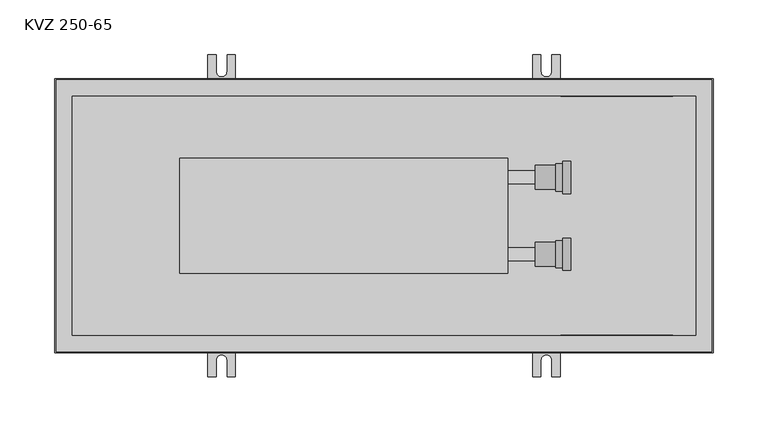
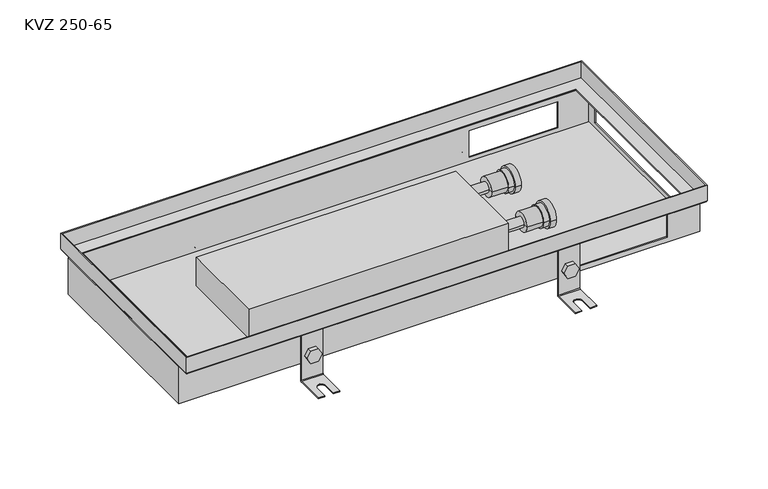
"""IFC4 building model written with IfcOpenShell, lengths in millimetres: proxy geometry, TECHNO_Конвектор встраиваемый_Usual_KVZ-250_65 : KVZ 250-65."""

import ifcopenshell
import ifcopenshell.guid

model = None  # the IFC model being written
_history = None  # IfcOwnerHistory: only IFC2X3 demands one
_inside = {}  # id of a spatial element -> (the spatial element, [elements in it])
_under = {}  # id of a project, library or spatial element -> (it, [spatial elements below it])
_declared = {}  # id of a project -> (the project, [libraries it declares])
_typed = {}  # id of a type object -> (the type object, [elements of that type])
_made_of = {}  # id of a material, layer set ... -> (it, [elements and type objects made of it])


def new_model(schema):
    """Start an empty IFC model of exactly this schema.

    Asked for "IFC4X3", IfcOpenShell would pick the latest addendum, in which some entities
    have other attributes; the version numbers below select the first issue.
    IFC2X3 requires an IfcOwnerHistory on every rooted entity: one is made here for all.
    """
    global model, _history
    if schema == "IFC4X3":
        model = ifcopenshell.file(schema_version=(4, 3, 0, 0))
    else:
        model = ifcopenshell.file(schema=schema)
    _inside.clear()
    _under.clear()
    _declared.clear()
    _typed.clear()
    _made_of.clear()
    _history = None
    if model.schema == "IFC2X3":
        org = make("IfcOrganization", Name="unknown")
        user = make(
            "IfcPersonAndOrganization",
            ThePerson=make("IfcPerson", FamilyName="unknown"),
            TheOrganization=org,
        )
        app = make(
            "IfcApplication",
            ApplicationDeveloper=org,
            Version="unknown",
            ApplicationFullName="unknown",
            ApplicationIdentifier="unknown",
        )
        _history = make(
            "IfcOwnerHistory",
            OwningUser=user,
            OwningApplication=app,
            ChangeAction="ADDED",
            CreationDate=0,
        )
    return model


def make(cls, **values):
    """One entity of the class cls with the attributes given. An attribute that is None is left unset."""
    return model.create_entity(
        cls, **{name: value for name, value in values.items() if value is not None}
    )


def rooted(cls, **values):
    """An entity with a GlobalId (a new one), such as an element, a storey or a relation."""
    return make(cls, GlobalId=ifcopenshell.guid.new(), OwnerHistory=_history, **values)


def si_unit(unit_type, name, prefix=None):
    """IfcSIUnit, for example si_unit("LENGTHUNIT", "METRE", prefix="MILLI")."""
    return make("IfcSIUnit", UnitType=unit_type, Prefix=prefix, Name=name)


def assignment(units):
    """IfcUnitAssignment: the units of a project."""
    return None if units is None else make("IfcUnitAssignment", Units=units)


def point(xyz):
    """IfcCartesianPoint."""
    return None if xyz is None else make("IfcCartesianPoint", Coordinates=xyz)


def direction(xyz):
    """IfcDirection."""
    return None if xyz is None else make("IfcDirection", DirectionRatios=xyz)


def frame(location, z_axis=None, x_axis=None):
    """IfcAxis2Placement3D, a coordinate frame: its origin and axes. An axis left out is left unset."""
    return make(
        "IfcAxis2Placement3D",
        Location=point(location),
        Axis=direction(z_axis),
        RefDirection=direction(x_axis),
    )


def frame_2d(location, x_axis=None):
    """IfcAxis2Placement2D, a coordinate frame in the plane: its origin and x axis."""
    return make(
        "IfcAxis2Placement2D", Location=point(location), RefDirection=direction(x_axis)
    )


def origin():
    """The frame at (0, 0, 0) with its axes left unset."""
    return frame((0.0, 0.0, 0.0))


def place(relative_to, where):
    """IfcLocalPlacement: puts the frame where relative to a parent placement (None: the world)."""
    return make(
        "IfcLocalPlacement", PlacementRelTo=relative_to, RelativePlacement=where
    )


def context(
    kind, dimensions, precision=None, world=None, true_north=None, identifier=None
):
    """IfcGeometricRepresentationContext, for example the 3D "Model" context."""
    return make(
        "IfcGeometricRepresentationContext",
        ContextIdentifier=identifier,
        ContextType=kind,
        CoordinateSpaceDimension=dimensions,
        Precision=precision,
        WorldCoordinateSystem=world,
        TrueNorth=true_north,
    )


def project(units=None, contexts=None):
    """IfcProject with its units and contexts."""
    return rooted(
        "IfcProject",
        Name="project",
        RepresentationContexts=contexts,
        UnitsInContext=assignment(units),
    )


def spatial(cls, under=None, at=None, **own):
    """A site, building, storey or space (cls), placed at a placement, below another one or the project."""
    s = rooted(cls, ObjectPlacement=at, **own)
    if under is not None:
        _under.setdefault(under.id(), (under, []))[1].append(s)
    return s


def polyline(points):
    """IfcPolyline through the points."""
    return make("IfcPolyline", Points=[point(p) for p in points])


def circle_curve(where, radius):
    """IfcCircle in the frame where."""
    return make("IfcCircle", Position=where, Radius=radius)


def ellipse_curve(where, semi_axis1, semi_axis2):
    """IfcEllipse in the frame where."""
    return make(
        "IfcEllipse", Position=where, SemiAxis1=semi_axis1, SemiAxis2=semi_axis2
    )


def trimmed(basis, trim1, trim2, sense, master):
    """IfcTrimmedCurve: the piece of a basis curve between two trims."""
    return make(
        "IfcTrimmedCurve",
        BasisCurve=basis,
        Trim1=trim1,
        Trim2=trim2,
        SenseAgreement=sense,
        MasterRepresentation=master,
    )


def segment(curve, same_sense, transition):
    """IfcCompositeCurveSegment."""
    return make(
        "IfcCompositeCurveSegment",
        Transition=transition,
        SameSense=same_sense,
        ParentCurve=curve,
    )


def composite_curve(segments, self_intersect=None):
    """IfcCompositeCurve: segments joined end to end."""
    return make("IfcCompositeCurve", Segments=segments, SelfIntersect=self_intersect)


def outline(outer, holes=None, kind="AREA"):
    """IfcArbitraryClosedProfileDef: a profile drawn as a closed curve; with holes, ...WithVoids."""
    if holes is None:
        return make("IfcArbitraryClosedProfileDef", ProfileType=kind, OuterCurve=outer)
    return make(
        "IfcArbitraryProfileDefWithVoids",
        ProfileType=kind,
        OuterCurve=outer,
        InnerCurves=holes,
    )


def extrude(swept, where, along, depth):
    """IfcExtrudedAreaSolid: the profile swept, set in the frame where, extruded along a direction by depth."""
    return make(
        "IfcExtrudedAreaSolid",
        SweptArea=swept,
        Position=where,
        ExtrudedDirection=direction(along),
        Depth=depth,
    )


def faces_of(points, faces, orient=None, outer=None):
    """IfcFace entities. A face is a list of loops; a loop is a list of indices into points, from 0.

    orient and outer hold one flag for each loop. By default every Orientation is true, the
    first loop of a face is its IfcFaceOuterBound and the others are IfcFaceBound.
    """
    made = []
    for i, loops in enumerate(faces):
        bounds = []
        for j, loop in enumerate(loops):
            is_outer = j == 0 if outer is None else outer[i][j]
            bounds.append(
                make(
                    "IfcFaceOuterBound" if is_outer else "IfcFaceBound",
                    Bound=make("IfcPolyLoop", Polygon=[points[k] for k in loop]),
                    Orientation=True if orient is None else orient[i][j],
                )
            )
        made.append(make("IfcFace", Bounds=bounds))
    return made


def faceted_brep(points, faces, orient=None, outer=None, voids=None):
    """IfcFacetedBrep: a solid bounded by flat faces; with voids (closed shells), ...WithVoids."""
    shared = [point(p) for p in points]
    hull = make("IfcClosedShell", CfsFaces=faces_of(shared, faces, orient, outer))
    if voids is None:
        return make("IfcFacetedBrep", Outer=hull)
    return make(
        "IfcFacetedBrepWithVoids",
        Outer=hull,
        Voids=[
            make(cls, CfsFaces=faces_of(shared, fs, o, b)) for cls, fs, o, b in voids
        ],
    )


def shape(context_of_items, identifier, shape_type, items):
    """IfcShapeRepresentation: the items that make up one representation, for example the "Body"."""
    return make(
        "IfcShapeRepresentation",
        ContextOfItems=context_of_items,
        RepresentationIdentifier=identifier,
        RepresentationType=shape_type,
        Items=items,
    )


def source(mapping_origin, context_of_items, identifier, shape_type, items):
    """IfcRepresentationMap: a shape defined once, which mapped items show again and again."""
    return make(
        "IfcRepresentationMap",
        MappingOrigin=mapping_origin,
        MappedRepresentation=shape(context_of_items, identifier, shape_type, items),
    )


def transform(
    local_origin,
    x_axis=None,
    y_axis=None,
    z_axis=None,
    scale=None,
    scale2=None,
    scale3=None,
    uniform=True,
):
    """IfcCartesianTransformationOperator3D, or its non-uniform kind. x_axis, y_axis, z_axis: its Axis1, 2, 3."""
    if uniform:
        return make(
            "IfcCartesianTransformationOperator3D",
            Axis1=direction(x_axis),
            Axis2=direction(y_axis),
            LocalOrigin=point(local_origin),
            Scale=scale,
            Axis3=direction(z_axis),
        )
    return make(
        "IfcCartesianTransformationOperator3DnonUniform",
        Axis1=direction(x_axis),
        Axis2=direction(y_axis),
        LocalOrigin=point(local_origin),
        Scale=scale,
        Axis3=direction(z_axis),
        Scale2=scale2,
        Scale3=scale3,
    )


def mapped(mapping_source, mapping_target):
    """IfcMappedItem: shows the shape of a source again, moved by a transform."""
    return make(
        "IfcMappedItem", MappingSource=mapping_source, MappingTarget=mapping_target
    )


def made_of(thing, what):
    """Note that an element or type object is made of a material, layer set ...; save() writes the relation."""
    if what is not None:
        _made_of.setdefault(what.id(), (what, []))[1].append(thing)
    return thing


def element(
    cls,
    number,
    at=None,
    inside=None,
    cuts=None,
    type_object=None,
    material=None,
    context=None,
    identifier="Body",
    shape_type=None,
    held_by="IfcProductDefinitionShape",
    body=None,
    shapes=None,
    **own,
):
    """One element of the class cls, such as IfcWall. Its Tag is "e" and its number.

    at: its placement. inside: the storey or other place that contains it. cuts: it is an
    opening in that element (IfcRelVoidsElement). A single representation is given by context,
    identifier, shape_type and body (its items); several are given by shapes. held_by: the class
    of the entity that holds the representations. save() writes the other relations.
    """
    e = rooted(cls, Tag="e%d" % number, ObjectPlacement=at, **own)
    if body is not None:
        shapes = [shape(context, identifier, shape_type, body)]
    if shapes is not None:
        e.Representation = make(held_by, Representations=shapes)
    if inside is not None:
        _inside.setdefault(inside.id(), (inside, []))[1].append(e)
    if cuts is not None:
        rooted(
            "IfcRelVoidsElement", RelatingBuildingElement=cuts, RelatedOpeningElement=e
        )
    if type_object is not None:
        _typed.setdefault(type_object.id(), (type_object, []))[1].append(e)
    return made_of(e, material)


def aggregate(whole, parts):
    """IfcRelAggregates: a whole, such as a stair, and the parts it consists of."""
    return rooted("IfcRelAggregates", RelatingObject=whole, RelatedObjects=parts)


def save(model, path):
    """Write the relations noted so far, then the file.

    IfcRelAggregates (storeys below a building ...), IfcRelContainedInSpatialStructure (elements
    in a storey), IfcRelDefinesByType, IfcRelAssociatesMaterial and IfcRelDeclares: one each for
    every whole, place, type object, material and project.
    """
    for whole, parts in _under.values():
        aggregate(whole, parts)
    for where, things in _inside.values():
        rooted(
            "IfcRelContainedInSpatialStructure",
            RelatedElements=things,
            RelatingStructure=where,
        )
    for kind, things in _typed.values():
        rooted("IfcRelDefinesByType", RelatedObjects=things, RelatingType=kind)
    for what, things in _made_of.values():
        rooted("IfcRelAssociatesMaterial", RelatedObjects=things, RelatingMaterial=what)
    for by, libraries in _declared.values():
        rooted("IfcRelDeclares", RelatingContext=by, RelatedDefinitions=libraries)
    model.write(path)


def plane_surface(at):
    """IfcPlane: the flat surface through the origin of the frame at, square to its z axis."""
    return make("IfcPlane", Position=at)


def cylinder_surface(at, radius):
    """IfcCylindricalSurface: all points at the distance radius from the z axis of the frame at."""
    return make("IfcCylindricalSurface", Position=at, Radius=radius)


def revolved_surface(curve, axis_point, axis_direction):
    """IfcSurfaceOfRevolution: the curve turned about the line through axis_point along axis_direction."""
    return make(
        "IfcSurfaceOfRevolution",
        SweptCurve=make("IfcArbitraryOpenProfileDef", ProfileType="CURVE", Curve=curve),
        AxisPosition=make("IfcAxis1Placement", Location=point(axis_point), Axis=direction(axis_direction)),
    )


def advanced_brep(points, edges, surfaces, faces):
    """IfcAdvancedBrep: a solid bounded by faces that lie on surfaces and meet in shared edges.

    An edge is (start, end): straight between two places in points (the first is 0);
    or (start, end, curve); or (start, end, curve, False) where it runs against its curve.
    A face is (place in surfaces, loops), or (place, loops, False) where it looks against
    its surface's normal. A loop lists edges by number (the first is 1), with a minus sign
    where the edge is run from its end to its start. The first loop is the outer one.
    """
    corners = [point(p) for p in points]
    vertices = [make("IfcVertexPoint", VertexGeometry=c) for c in corners]
    made = []
    for start, end, *more in edges:
        made.append(
            make(
                "IfcEdgeCurve",
                EdgeStart=vertices[start],
                EdgeEnd=vertices[end],
                EdgeGeometry=more[0] if more else make("IfcPolyline", Points=[corners[start], corners[end]]),
                SameSense=more[1] if len(more) > 1 else True,
            )
        )
    hull = []
    for where, loops, *sense in faces:
        bounds = []
        for j, loop in enumerate(loops):
            ring = [make("IfcOrientedEdge", EdgeElement=made[abs(k) - 1], Orientation=k > 0) for k in loop]
            bounds.append(
                make(
                    "IfcFaceOuterBound" if j == 0 else "IfcFaceBound",
                    Bound=make("IfcEdgeLoop", EdgeList=ring),
                    Orientation=True,
                )
            )
        hull.append(make("IfcAdvancedFace", Bounds=bounds, FaceSurface=surfaces[where], SameSense=sense[0] if sense else True))
    return make("IfcAdvancedBrep", Outer=make("IfcClosedShell", CfsFaces=hull))


def kvz_250_65_78995d62(model_context):
    return source(origin(), model_context, "Body", "SolidModel", [
        extrude(outline(composite_curve([segment(trimmed(circle_curve(frame_2d((-55.5, 448.0)), 7.5), [point((-55.5, 440.5))], [point((-55.5, 455.5))], False, "CARTESIAN"), True, "CONTINUOUS"), segment(trimmed(circle_curve(frame_2d((-55.5, 448.0)), 7.5), [point((-55.5, 455.5))], [point((-55.5, 440.5))], False, "CARTESIAN"), True, "CONTINUOUS")], self_intersect=False)), frame((0.0, 110.2, 0.0), z_axis=(0.0, 1.0, 0.0), x_axis=(0.0, 0.0, 1.0)), (0.0, 0.0, 1.0), 1.5),
        extrude(outline(polyline([(-55.5, 439.339746), (-63.0, 443.669873), (-63.0, 452.330127), (-55.5, 456.660254), (-48.0, 452.330127), (-48.0, 443.669873), (-55.5, 439.339746)])), frame((0.0, 112.9, 0.0), z_axis=(0.0, 1.0, 0.0), x_axis=(0.0, 0.0, 1.0)), (0.0, 0.0, 1.0), 5.1),
        advanced_brep(
        [(460.5, 112.9, -20.5), (460.5, 111.7, -20.5), (460.5, 111.7, -83.5), (460.5, 113.7, -85.5), (460.5, 146.7, -85.5), (460.5, 146.7, -84.3), (460.5, 113.7, -84.3), (460.5, 112.9, -83.5), (435.5, 112.9, -20.5), (435.5, 112.9, -83.5), (435.5, 113.7, -84.3), (435.5, 146.7, -84.3), (435.5, 146.7, -85.5), (435.5, 113.7, -85.5), (435.5, 111.7, -83.5), (435.5, 111.7, -20.5), (453.0, 146.7, -84.3), (453.0, 131.7, -84.3), (443.0, 131.7, -84.3), (443.0, 146.7, -84.3), (443.0, 146.7, -85.5), (453.0, 146.7, -85.5), (443.0, 131.7, -85.5), (453.0, 131.7, -85.5)],
        [
            (0, 1),
            (1, 2),
            (2, 3, circle_curve(frame((460.5, 113.7, -83.5), z_axis=(1.0, 0.0, 0.0), x_axis=(0.0, 1.0, 0.0)), 2.0)),
            (3, 4),
            (4, 5),
            (5, 6),
            (6, 7, circle_curve(frame((460.5, 113.7, -83.5), z_axis=(-1.0, 0.0, 0.0), x_axis=(0.0, 1.0, 0.0)), 0.8)),
            (7, 0),
            (8, 9),
            (9, 10, circle_curve(frame((435.5, 113.7, -83.5), z_axis=(1.0, 0.0, 0.0), x_axis=(0.0, 1.0, 0.0)), 0.8)),
            (10, 11),
            (11, 12),
            (12, 13),
            (13, 14, circle_curve(frame((435.5, 113.7, -83.5), z_axis=(-1.0, 0.0, 0.0), x_axis=(0.0, 1.0, 0.0)), 2.0)),
            (14, 15),
            (15, 8),
            (7, 9),
            (8, 0),
            (6, 10),
            (5, 16),
            (16, 17),
            (17, 18, circle_curve(frame((448.0, 131.7, -84.3), z_axis=(0.0, 0.0, -1.0), x_axis=(1.0, 0.0, 0.0)), 5.0)),
            (18, 19),
            (19, 11),
            (19, 20),
            (20, 12),
            (4, 21),
            (21, 16),
            (3, 13),
            (20, 22),
            (22, 23, circle_curve(frame((448.0, 131.7, -85.5), z_axis=(0.0, 0.0, 1.0), x_axis=(1.0, 0.0, 0.0)), 5.0)),
            (23, 21),
            (2, 14),
            (1, 15),
            (18, 22),
            (23, 17),
        ],
        [
            plane_surface(frame((460.5, 112.9, -20.5), z_axis=(1.0, 0.0, 0.0), x_axis=(0.0, 0.0, -1.0))),
            plane_surface(frame((435.5, 112.9, -20.5), z_axis=(-1.0, 0.0, 0.0), x_axis=(0.0, 0.0, 1.0))),
            plane_surface(frame((460.5, 112.9, -20.5), z_axis=(0.0, 1.0, 0.0), x_axis=(-1.0, 0.0, 0.0))),
            revolved_surface(polyline([(435.5, 114.5, -83.5), (460.5, 114.5, -83.5)]), (435.5, 113.7, -83.5), (-1.0, 0.0, 0.0)),
            plane_surface(frame((460.5, 113.7, -84.3), z_axis=(0.0, 0.0, 1.0), x_axis=(-1.0, 0.0, 0.0))),
            plane_surface(frame((460.5, 146.7, -84.3), z_axis=(0.0, 1.0, 0.0), x_axis=(-1.0, 0.0, 0.0))),
            plane_surface(frame((460.5, 146.7, -85.5), z_axis=(0.0, 0.0, -1.0), x_axis=(-1.0, 0.0, 0.0))),
            cylinder_surface(frame((435.5, 113.7, -83.5), z_axis=(1.0, 0.0, 0.0), x_axis=(0.0, 1.0, 0.0)), 2.0),
            plane_surface(frame((460.5, 111.7, -83.5), z_axis=(0.0, -1.0, 0.0), x_axis=(-1.0, 0.0, 0.0))),
            plane_surface(frame((460.5, 111.7, -20.5), z_axis=(0.0, 0.0, 1.0), x_axis=(-1.0, 0.0, 0.0))),
            plane_surface(frame((443.0, 131.7, -84.3), z_axis=(1.0, 0.0, 0.0), x_axis=(0.0, 0.0, -1.0))),
            plane_surface(frame((453.0, 146.7, -84.3), z_axis=(-1.0, 0.0, 0.0), x_axis=(0.0, 0.0, -1.0))),
            revolved_surface(polyline([(453.0, 131.7, -84.3), (453.0, 131.7, -85.5)]), (448.0, 131.7, -85.5), (0.0, 0.0, 1.0)),
        ],
        [
            (0, [[1, 2, 3, 4, 5, 6, 7, 8]]),
            (1, [[9, 10, 11, 12, 13, 14, 15, 16]]),
            (2, [[17, -9, 18, -8]]),
            (3, [[19, -10, -17, -7]]),
            (4, [[20, 21, 22, 23, 24, -11, -19, -6]]),
            (5, [[-24, 25, 26, -12]]),
            (5, [[27, 28, -20, -5]]),
            (6, [[29, -13, -26, 30, 31, 32, -27, -4]]),
            (7, [[33, -14, -29, -3]]),
            (8, [[34, -15, -33, -2]]),
            (9, [[-18, -16, -34, -1]]),
            (10, [[-30, -25, -23, 35]]),
            (11, [[-21, -28, -32, 36]]),
            (12, [[-22, -36, -31, -35]]),
        ],
    ),
        extrude(outline(composite_curve([segment(trimmed(circle_curve(frame_2d((-55.5, 448.0)), 7.5), [point((-55.5, 440.5))], [point((-55.5, 455.5))], False, "CARTESIAN"), True, "CONTINUOUS"), segment(trimmed(circle_curve(frame_2d((-55.5, 448.0)), 7.5), [point((-55.5, 455.5))], [point((-55.5, 440.5))], False, "CARTESIAN"), True, "CONTINUOUS")], self_intersect=False)), frame((0.0, -111.7, 0.0), z_axis=(0.0, 1.0, 0.0), x_axis=(0.0, 0.0, 1.0)), (0.0, 0.0, 1.0), 1.5),
        extrude(outline(polyline([(-55.5, 439.339746), (-63.0, 443.669873), (-63.0, 452.330127), (-55.5, 456.660254), (-48.0, 452.330127), (-48.0, 443.669873), (-55.5, 439.339746)])), frame((0.0, -118.0, 0.0), z_axis=(0.0, 1.0, 0.0), x_axis=(0.0, 0.0, 1.0)), (0.0, 0.0, 1.0), 5.1),
        advanced_brep(
        [(460.5, -112.9, -20.5), (460.5, -112.9, -83.5), (460.5, -113.7, -84.3), (460.5, -146.7, -84.3), (460.5, -146.7, -85.5), (460.5, -113.7, -85.5), (460.5, -111.7, -83.5), (460.5, -111.7, -20.5), (435.5, -112.9, -20.5), (435.5, -111.7, -20.5), (435.5, -111.7, -83.5), (435.5, -113.7, -85.5), (435.5, -146.7, -85.5), (435.5, -146.7, -84.3), (435.5, -113.7, -84.3), (435.5, -112.9, -83.5), (443.0, -146.7, -84.3), (443.0, -131.7, -84.3), (453.0, -131.7, -84.3), (453.0, -146.7, -84.3), (453.0, -146.7, -85.5), (443.0, -146.7, -85.5), (453.0, -131.7, -85.5), (443.0, -131.7, -85.5)],
        [
            (0, 1),
            (1, 2, circle_curve(frame((460.5, -113.7, -83.5), z_axis=(-1.0, 0.0, 0.0), x_axis=(0.0, -1.0, 0.0)), 0.8)),
            (2, 3),
            (3, 4),
            (4, 5),
            (5, 6, circle_curve(frame((460.5, -113.7, -83.5), z_axis=(1.0, 0.0, 0.0), x_axis=(0.0, -1.0, 0.0)), 2.0)),
            (6, 7),
            (7, 0),
            (8, 9),
            (9, 10),
            (10, 11, circle_curve(frame((435.5, -113.7, -83.5), z_axis=(-1.0, 0.0, 0.0), x_axis=(0.0, -1.0, 0.0)), 2.0)),
            (11, 12),
            (12, 13),
            (13, 14),
            (14, 15, circle_curve(frame((435.5, -113.7, -83.5), z_axis=(1.0, 0.0, 0.0), x_axis=(0.0, -1.0, 0.0)), 0.8)),
            (15, 8),
            (0, 8),
            (15, 1),
            (14, 2),
            (13, 16),
            (16, 17),
            (17, 18, circle_curve(frame((448.0, -131.7, -84.3), z_axis=(0.0, 0.0, -1.0), x_axis=(1.0, 0.0, 0.0)), 5.0)),
            (18, 19),
            (19, 3),
            (19, 20),
            (20, 4),
            (12, 21),
            (21, 16),
            (20, 22),
            (22, 23, circle_curve(frame((448.0, -131.7, -85.5), z_axis=(0.0, 0.0, 1.0), x_axis=(1.0, 0.0, 0.0)), 5.0)),
            (23, 21),
            (11, 5),
            (10, 6),
            (9, 7),
            (23, 17),
            (18, 22),
        ],
        [
            plane_surface(frame((460.5, -112.9, -20.5), z_axis=(1.0, 0.0, 0.0), x_axis=(0.0, 0.0, -1.0))),
            plane_surface(frame((435.5, -112.9, -20.5), z_axis=(-1.0, 0.0, 0.0), x_axis=(0.0, 0.0, 1.0))),
            plane_surface(frame((460.5, -112.9, -20.5), z_axis=(0.0, -1.0, 0.0), x_axis=(-1.0, 0.0, 0.0))),
            revolved_surface(polyline([(435.5, -114.5, -83.5), (460.5, -114.5, -83.5)]), (435.5, -113.7, -83.5), (-1.0, 0.0, 0.0)),
            plane_surface(frame((460.5, -113.7, -84.3), z_axis=(0.0, 0.0, 1.0), x_axis=(-1.0, 0.0, 0.0))),
            plane_surface(frame((460.5, -146.7, -84.3), z_axis=(0.0, -1.0, 0.0), x_axis=(-1.0, 0.0, 0.0))),
            plane_surface(frame((460.5, -146.7, -85.5), z_axis=(0.0, 0.0, -1.0), x_axis=(-1.0, 0.0, 0.0))),
            cylinder_surface(frame((435.5, -113.7, -83.5), z_axis=(1.0, 0.0, 0.0), x_axis=(0.0, -1.0, 0.0)), 2.0),
            plane_surface(frame((460.5, -111.7, -83.5), z_axis=(0.0, 1.0, 0.0), x_axis=(-1.0, 0.0, 0.0))),
            plane_surface(frame((460.5, -111.7, -20.5), z_axis=(0.0, 0.0, 1.0), x_axis=(-1.0, 0.0, 0.0))),
            plane_surface(frame((443.0, -131.7, -84.3), z_axis=(1.0, 0.0, 0.0), x_axis=(0.0, 0.0, -1.0))),
            plane_surface(frame((453.0, -146.7, -84.3), z_axis=(-1.0, 0.0, 0.0), x_axis=(0.0, 0.0, -1.0))),
            revolved_surface(polyline([(453.0, -131.7, -84.3), (453.0, -131.7, -85.5)]), (448.0, -131.7, -85.5), (0.0, 0.0, 1.0)),
        ],
        [
            (0, [[1, 2, 3, 4, 5, 6, 7, 8]]),
            (1, [[9, 10, 11, 12, 13, 14, 15, 16]]),
            (2, [[-1, 17, -16, 18]]),
            (3, [[-2, -18, -15, 19]]),
            (4, [[-3, -19, -14, 20, 21, 22, 23, 24]]),
            (5, [[-4, -24, 25, 26]]),
            (5, [[-13, 27, 28, -20]]),
            (6, [[-5, -26, 29, 30, 31, -27, -12, 32]]),
            (7, [[-6, -32, -11, 33]]),
            (8, [[-7, -33, -10, 34]]),
            (9, [[-8, -34, -9, -17]]),
            (10, [[35, -21, -28, -31]]),
            (11, [[36, -29, -25, -23]]),
            (12, [[-35, -30, -36, -22]]),
        ],
    ),
        extrude(outline(composite_curve([segment(trimmed(circle_curve(frame_2d((-55.5, 152.0)), 7.5), [point((-55.5, 144.5))], [point((-55.5, 159.5))], False, "CARTESIAN"), True, "CONTINUOUS"), segment(trimmed(circle_curve(frame_2d((-55.5, 152.0)), 7.5), [point((-55.5, 159.5))], [point((-55.5, 144.5))], False, "CARTESIAN"), True, "CONTINUOUS")], self_intersect=False)), frame((0.0, 110.2, 0.0), z_axis=(0.0, 1.0, 0.0), x_axis=(0.0, 0.0, 1.0)), (0.0, 0.0, 1.0), 1.5),
        extrude(outline(polyline([(-55.5, 143.339746), (-63.0, 147.669873), (-63.0, 156.330127), (-55.5, 160.660254), (-48.0, 156.330127), (-48.0, 147.669873), (-55.5, 143.339746)])), frame((0.0, 112.9, 0.0), z_axis=(0.0, 1.0, 0.0), x_axis=(0.0, 0.0, 1.0)), (0.0, 0.0, 1.0), 5.1),
        advanced_brep(
        [(164.5, 112.9, -20.5), (164.5, 111.7, -20.5), (164.5, 111.7, -83.5), (164.5, 113.7, -85.5), (164.5, 146.7, -85.5), (164.5, 146.7, -84.3), (164.5, 113.7, -84.3), (164.5, 112.9, -83.5), (139.5, 112.9, -20.5), (139.5, 112.9, -83.5), (139.5, 113.7, -84.3), (139.5, 146.7, -84.3), (139.5, 146.7, -85.5), (139.5, 113.7, -85.5), (139.5, 111.7, -83.5), (139.5, 111.7, -20.5), (157.0, 146.7, -84.3), (157.0, 131.7, -84.3), (147.0, 131.7, -84.3), (147.0, 146.7, -84.3), (147.0, 146.7, -85.5), (157.0, 146.7, -85.5), (147.0, 131.7, -85.5), (157.0, 131.7, -85.5)],
        [
            (0, 1),
            (1, 2),
            (2, 3, circle_curve(frame((164.5, 113.7, -83.5), z_axis=(1.0, 0.0, 0.0), x_axis=(0.0, 1.0, 0.0)), 2.0)),
            (3, 4),
            (4, 5),
            (5, 6),
            (6, 7, circle_curve(frame((164.5, 113.7, -83.5), z_axis=(-1.0, 0.0, 0.0), x_axis=(0.0, 1.0, 0.0)), 0.8)),
            (7, 0),
            (8, 9),
            (9, 10, circle_curve(frame((139.5, 113.7, -83.5), z_axis=(1.0, 0.0, 0.0), x_axis=(0.0, 1.0, 0.0)), 0.8)),
            (10, 11),
            (11, 12),
            (12, 13),
            (13, 14, circle_curve(frame((139.5, 113.7, -83.5), z_axis=(-1.0, 0.0, 0.0), x_axis=(0.0, 1.0, 0.0)), 2.0)),
            (14, 15),
            (15, 8),
            (7, 9),
            (8, 0),
            (6, 10),
            (5, 16),
            (16, 17),
            (17, 18, circle_curve(frame((152.0, 131.7, -84.3), z_axis=(0.0, 0.0, -1.0), x_axis=(1.0, 0.0, 0.0)), 5.0)),
            (18, 19),
            (19, 11),
            (19, 20),
            (20, 12),
            (4, 21),
            (21, 16),
            (3, 13),
            (20, 22),
            (22, 23, circle_curve(frame((152.0, 131.7, -85.5), z_axis=(0.0, 0.0, 1.0), x_axis=(1.0, 0.0, 0.0)), 5.0)),
            (23, 21),
            (2, 14),
            (1, 15),
            (18, 22),
            (23, 17),
        ],
        [
            plane_surface(frame((164.5, 112.9, -20.5), z_axis=(1.0, 0.0, 0.0), x_axis=(0.0, 0.0, -1.0))),
            plane_surface(frame((139.5, 112.9, -20.5), z_axis=(-1.0, 0.0, 0.0), x_axis=(0.0, 0.0, 1.0))),
            plane_surface(frame((164.5, 112.9, -20.5), z_axis=(0.0, 1.0, 0.0), x_axis=(-1.0, 0.0, 0.0))),
            revolved_surface(polyline([(139.5, 114.5, -83.5), (164.5, 114.5, -83.5)]), (139.5, 113.7, -83.5), (-1.0, 0.0, 0.0)),
            plane_surface(frame((164.5, 113.7, -84.3), z_axis=(0.0, 0.0, 1.0), x_axis=(-1.0, 0.0, 0.0))),
            plane_surface(frame((164.5, 146.7, -84.3), z_axis=(0.0, 1.0, 0.0), x_axis=(-1.0, 0.0, 0.0))),
            plane_surface(frame((164.5, 146.7, -85.5), z_axis=(0.0, 0.0, -1.0), x_axis=(-1.0, 0.0, 0.0))),
            cylinder_surface(frame((139.5, 113.7, -83.5), z_axis=(1.0, 0.0, 0.0), x_axis=(0.0, 1.0, 0.0)), 2.0),
            plane_surface(frame((164.5, 111.7, -83.5), z_axis=(0.0, -1.0, 0.0), x_axis=(-1.0, 0.0, 0.0))),
            plane_surface(frame((164.5, 111.7, -20.5), z_axis=(0.0, 0.0, 1.0), x_axis=(-1.0, 0.0, 0.0))),
            plane_surface(frame((147.0, 131.7, -84.3), z_axis=(1.0, 0.0, 0.0), x_axis=(0.0, 0.0, -1.0))),
            plane_surface(frame((157.0, 146.7, -84.3), z_axis=(-1.0, 0.0, 0.0), x_axis=(0.0, 0.0, -1.0))),
            revolved_surface(polyline([(157.0, 131.7, -84.3), (157.0, 131.7, -85.5)]), (152.0, 131.7, -85.5), (0.0, 0.0, 1.0)),
        ],
        [
            (0, [[1, 2, 3, 4, 5, 6, 7, 8]]),
            (1, [[9, 10, 11, 12, 13, 14, 15, 16]]),
            (2, [[17, -9, 18, -8]]),
            (3, [[19, -10, -17, -7]]),
            (4, [[20, 21, 22, 23, 24, -11, -19, -6]]),
            (5, [[-24, 25, 26, -12]]),
            (5, [[27, 28, -20, -5]]),
            (6, [[29, -13, -26, 30, 31, 32, -27, -4]]),
            (7, [[33, -14, -29, -3]]),
            (8, [[34, -15, -33, -2]]),
            (9, [[-18, -16, -34, -1]]),
            (10, [[-30, -25, -23, 35]]),
            (11, [[-21, -28, -32, 36]]),
            (12, [[-22, -36, -31, -35]]),
        ],
    ),
        extrude(outline(composite_curve([segment(trimmed(circle_curve(frame_2d((-55.5, 152.0)), 7.5), [point((-55.5, 144.5))], [point((-55.5, 159.5))], False, "CARTESIAN"), True, "CONTINUOUS"), segment(trimmed(circle_curve(frame_2d((-55.5, 152.0)), 7.5), [point((-55.5, 159.5))], [point((-55.5, 144.5))], False, "CARTESIAN"), True, "CONTINUOUS")], self_intersect=False)), frame((0.0, -111.7, 0.0), z_axis=(0.0, 1.0, 0.0), x_axis=(0.0, 0.0, 1.0)), (0.0, 0.0, 1.0), 1.5),
        extrude(outline(polyline([(-55.5, 143.339746), (-63.0, 147.669873), (-63.0, 156.330127), (-55.5, 160.660254), (-48.0, 156.330127), (-48.0, 147.669873), (-55.5, 143.339746)])), frame((0.0, -118.0, 0.0), z_axis=(0.0, 1.0, 0.0), x_axis=(0.0, 0.0, 1.0)), (0.0, 0.0, 1.0), 5.1),
        advanced_brep(
        [(164.5, -112.9, -20.5), (164.5, -112.9, -83.5), (164.5, -113.7, -84.3), (164.5, -146.7, -84.3), (164.5, -146.7, -85.5), (164.5, -113.7, -85.5), (164.5, -111.7, -83.5), (164.5, -111.7, -20.5), (139.5, -112.9, -20.5), (139.5, -111.7, -20.5), (139.5, -111.7, -83.5), (139.5, -113.7, -85.5), (139.5, -146.7, -85.5), (139.5, -146.7, -84.3), (139.5, -113.7, -84.3), (139.5, -112.9, -83.5), (147.0, -146.7, -84.3), (147.0, -131.7, -84.3), (157.0, -131.7, -84.3), (157.0, -146.7, -84.3), (157.0, -146.7, -85.5), (147.0, -146.7, -85.5), (157.0, -131.7, -85.5), (147.0, -131.7, -85.5)],
        [
            (0, 1),
            (1, 2, circle_curve(frame((164.5, -113.7, -83.5), z_axis=(-1.0, 0.0, 0.0), x_axis=(0.0, -1.0, 0.0)), 0.8)),
            (2, 3),
            (3, 4),
            (4, 5),
            (5, 6, circle_curve(frame((164.5, -113.7, -83.5), z_axis=(1.0, 0.0, 0.0), x_axis=(0.0, -1.0, 0.0)), 2.0)),
            (6, 7),
            (7, 0),
            (8, 9),
            (9, 10),
            (10, 11, circle_curve(frame((139.5, -113.7, -83.5), z_axis=(-1.0, 0.0, 0.0), x_axis=(0.0, -1.0, 0.0)), 2.0)),
            (11, 12),
            (12, 13),
            (13, 14),
            (14, 15, circle_curve(frame((139.5, -113.7, -83.5), z_axis=(1.0, 0.0, 0.0), x_axis=(0.0, -1.0, 0.0)), 0.8)),
            (15, 8),
            (0, 8),
            (15, 1),
            (14, 2),
            (13, 16),
            (16, 17),
            (17, 18, circle_curve(frame((152.0, -131.7, -84.3), z_axis=(0.0, 0.0, -1.0), x_axis=(1.0, 0.0, 0.0)), 5.0)),
            (18, 19),
            (19, 3),
            (19, 20),
            (20, 4),
            (12, 21),
            (21, 16),
            (20, 22),
            (22, 23, circle_curve(frame((152.0, -131.7, -85.5), z_axis=(0.0, 0.0, 1.0), x_axis=(1.0, 0.0, 0.0)), 5.0)),
            (23, 21),
            (11, 5),
            (10, 6),
            (9, 7),
            (23, 17),
            (18, 22),
        ],
        [
            plane_surface(frame((164.5, -112.9, -20.5), z_axis=(1.0, 0.0, 0.0), x_axis=(0.0, 0.0, -1.0))),
            plane_surface(frame((139.5, -112.9, -20.5), z_axis=(-1.0, 0.0, 0.0), x_axis=(0.0, 0.0, 1.0))),
            plane_surface(frame((164.5, -112.9, -20.5), z_axis=(0.0, -1.0, 0.0), x_axis=(-1.0, 0.0, 0.0))),
            revolved_surface(polyline([(139.5, -114.5, -83.5), (164.5, -114.5, -83.5)]), (139.5, -113.7, -83.5), (-1.0, 0.0, 0.0)),
            plane_surface(frame((164.5, -113.7, -84.3), z_axis=(0.0, 0.0, 1.0), x_axis=(-1.0, 0.0, 0.0))),
            plane_surface(frame((164.5, -146.7, -84.3), z_axis=(0.0, -1.0, 0.0), x_axis=(-1.0, 0.0, 0.0))),
            plane_surface(frame((164.5, -146.7, -85.5), z_axis=(0.0, 0.0, -1.0), x_axis=(-1.0, 0.0, 0.0))),
            cylinder_surface(frame((139.5, -113.7, -83.5), z_axis=(1.0, 0.0, 0.0), x_axis=(0.0, -1.0, 0.0)), 2.0),
            plane_surface(frame((164.5, -111.7, -83.5), z_axis=(0.0, 1.0, 0.0), x_axis=(-1.0, 0.0, 0.0))),
            plane_surface(frame((164.5, -111.7, -20.5), z_axis=(0.0, 0.0, 1.0), x_axis=(-1.0, 0.0, 0.0))),
            plane_surface(frame((147.0, -131.7, -84.3), z_axis=(1.0, 0.0, 0.0), x_axis=(0.0, 0.0, -1.0))),
            plane_surface(frame((157.0, -146.7, -84.3), z_axis=(-1.0, 0.0, 0.0), x_axis=(0.0, 0.0, -1.0))),
            revolved_surface(polyline([(157.0, -131.7, -84.3), (157.0, -131.7, -85.5)]), (152.0, -131.7, -85.5), (0.0, 0.0, 1.0)),
        ],
        [
            (0, [[1, 2, 3, 4, 5, 6, 7, 8]]),
            (1, [[9, 10, 11, 12, 13, 14, 15, 16]]),
            (2, [[-1, 17, -16, 18]]),
            (3, [[-2, -18, -15, 19]]),
            (4, [[-3, -19, -14, 20, 21, 22, 23, 24]]),
            (5, [[-4, -24, 25, 26]]),
            (5, [[-13, 27, 28, -20]]),
            (6, [[-5, -26, 29, 30, 31, -27, -12, 32]]),
            (7, [[-6, -32, -11, 33]]),
            (8, [[-7, -33, -10, 34]]),
            (9, [[-8, -34, -9, -17]]),
            (10, [[35, -21, -28, -31]]),
            (11, [[36, -29, -25, -23]]),
            (12, [[-35, -30, -36, -22]]),
        ],
    ),
        advanced_brep(
        [(438.0, 35.0, -42.3), (438.0, 46.0, -42.3), (438.0, 24.0, -42.3), (456.5, 46.0, -42.3), (456.5, 24.0, -42.3), (456.5, 47.5, -42.3), (456.5, 22.5, -42.3), (463.0, 47.5, -42.3), (463.0, 22.5, -42.3), (463.0, 49.7, -42.3), (463.0, 20.3, -42.3), (470.0, 49.7, -42.3), (470.0, 20.3, -42.3), (470.0, 35.0, -42.3)],
        [
            (0, 1),
            (1, 2, circle_curve(frame((438.0, 35.0, -42.3), z_axis=(-1.0, 0.0, 0.0), x_axis=(0.0, 1.0, 0.0)), 11.0)),
            (2, 0),
            (2, 1, circle_curve(frame((438.0, 35.0, -42.3), z_axis=(-1.0, 0.0, 0.0), x_axis=(0.0, 1.0, 0.0)), 11.0)),
            (1, 3),
            (3, 4, circle_curve(frame((456.5, 35.0, -42.3), z_axis=(-1.0, 0.0, 0.0), x_axis=(0.0, 1.0, 0.0)), 11.0)),
            (4, 2),
            (4, 3, circle_curve(frame((456.5, 35.0, -42.3), z_axis=(-1.0, 0.0, 0.0), x_axis=(0.0, 1.0, 0.0)), 11.0)),
            (3, 5),
            (5, 6, circle_curve(frame((456.5, 35.0, -42.3), z_axis=(-1.0, 0.0, 0.0), x_axis=(0.0, 1.0, 0.0)), 12.5)),
            (6, 4),
            (6, 5, circle_curve(frame((456.5, 35.0, -42.3), z_axis=(-1.0, 0.0, 0.0), x_axis=(0.0, 1.0, 0.0)), 12.5)),
            (5, 7),
            (7, 8, circle_curve(frame((463.0, 35.0, -42.3), z_axis=(-1.0, 0.0, 0.0), x_axis=(0.0, 1.0, 0.0)), 12.5)),
            (8, 6),
            (8, 7, circle_curve(frame((463.0, 35.0, -42.3), z_axis=(-1.0, 0.0, 0.0), x_axis=(0.0, 1.0, 0.0)), 12.5)),
            (7, 9),
            (9, 10, circle_curve(frame((463.0, 35.0, -42.3), z_axis=(-1.0, 0.0, 0.0), x_axis=(0.0, 1.0, 0.0)), 14.7)),
            (10, 8),
            (10, 9, circle_curve(frame((463.0, 35.0, -42.3), z_axis=(-1.0, 0.0, 0.0), x_axis=(0.0, 1.0, 0.0)), 14.7)),
            (9, 11),
            (11, 12, circle_curve(frame((470.0, 35.0, -42.3), z_axis=(-1.0, 0.0, 0.0), x_axis=(0.0, 1.0, 0.0)), 14.7)),
            (12, 10),
            (12, 11, circle_curve(frame((470.0, 35.0, -42.3), z_axis=(-1.0, 0.0, 0.0), x_axis=(0.0, 1.0, 0.0)), 14.7)),
            (11, 13),
            (13, 12),
        ],
        [
            plane_surface(frame((438.0, 35.0, -42.3), z_axis=(-1.0, 0.0, 0.0), x_axis=(0.0, 1.0, 0.0))),
            cylinder_surface(frame((480.0, 35.0, -42.3), z_axis=(-1.0, 0.0, 0.0), x_axis=(0.0, 1.0, 0.0)), 11.0),
            plane_surface(frame((456.5, 35.0, -42.3), z_axis=(-1.0, 0.0, 0.0), x_axis=(0.0, 1.0, 0.0))),
            cylinder_surface(frame((480.0, 35.0, -42.3), z_axis=(-1.0, 0.0, 0.0), x_axis=(0.0, 1.0, 0.0)), 12.5),
            plane_surface(frame((463.0, 35.0, -42.3), z_axis=(-1.0, 0.0, 0.0), x_axis=(0.0, 1.0, 0.0))),
            cylinder_surface(frame((480.0, 35.0, -42.3), z_axis=(-1.0, 0.0, 0.0), x_axis=(0.0, 1.0, 0.0)), 14.7),
            plane_surface(frame((470.0, 35.0, -42.3), z_axis=(1.0, 0.0, 0.0), x_axis=(0.0, 1.0, 0.0))),
        ],
        [
            (0, [[1, 2, 3]]),
            (0, [[-3, 4, -1]]),
            (1, [[-2, 5, 6, 7]]),
            (1, [[-4, -7, 8, -5]]),
            (2, [[-6, 9, 10, 11]]),
            (2, [[-8, -11, 12, -9]]),
            (3, [[-10, 13, 14, 15]]),
            (3, [[-12, -15, 16, -13]]),
            (4, [[-14, 17, 18, 19]]),
            (4, [[-16, -19, 20, -17]]),
            (5, [[-18, 21, 22, 23]]),
            (5, [[-20, -23, 24, -21]]),
            (6, [[-22, 25, 26]]),
            (6, [[-24, -26, -25]]),
        ],
    ),
        advanced_brep(
        [(438.0, -35.0, -42.3), (438.0, -24.0, -42.3), (438.0, -46.0, -42.3), (456.5, -24.0, -42.3), (456.5, -46.0, -42.3), (456.5, -22.5, -42.3), (456.5, -47.5, -42.3), (463.0, -22.5, -42.3), (463.0, -47.5, -42.3), (463.0, -20.3, -42.3), (463.0, -49.7, -42.3), (470.0, -20.3, -42.3), (470.0, -49.7, -42.3), (470.0, -35.0, -42.3)],
        [
            (0, 1),
            (1, 2, circle_curve(frame((438.0, -35.0, -42.3), z_axis=(-1.0, 0.0, 0.0), x_axis=(0.0, 1.0, 0.0)), 11.0)),
            (2, 0),
            (2, 1, circle_curve(frame((438.0, -35.0, -42.3), z_axis=(-1.0, 0.0, 0.0), x_axis=(0.0, 1.0, 0.0)), 11.0)),
            (1, 3),
            (3, 4, circle_curve(frame((456.5, -35.0, -42.3), z_axis=(-1.0, 0.0, 0.0), x_axis=(0.0, 1.0, 0.0)), 11.0)),
            (4, 2),
            (4, 3, circle_curve(frame((456.5, -35.0, -42.3), z_axis=(-1.0, 0.0, 0.0), x_axis=(0.0, 1.0, 0.0)), 11.0)),
            (3, 5),
            (5, 6, circle_curve(frame((456.5, -35.0, -42.3), z_axis=(-1.0, 0.0, 0.0), x_axis=(0.0, 1.0, 0.0)), 12.5)),
            (6, 4),
            (6, 5, circle_curve(frame((456.5, -35.0, -42.3), z_axis=(-1.0, 0.0, 0.0), x_axis=(0.0, 1.0, 0.0)), 12.5)),
            (5, 7),
            (7, 8, circle_curve(frame((463.0, -35.0, -42.3), z_axis=(-1.0, 0.0, 0.0), x_axis=(0.0, 1.0, 0.0)), 12.5)),
            (8, 6),
            (8, 7, circle_curve(frame((463.0, -35.0, -42.3), z_axis=(-1.0, 0.0, 0.0), x_axis=(0.0, 1.0, 0.0)), 12.5)),
            (7, 9),
            (9, 10, circle_curve(frame((463.0, -35.0, -42.3), z_axis=(-1.0, 0.0, 0.0), x_axis=(0.0, 1.0, 0.0)), 14.7)),
            (10, 8),
            (10, 9, circle_curve(frame((463.0, -35.0, -42.3), z_axis=(-1.0, 0.0, 0.0), x_axis=(0.0, 1.0, 0.0)), 14.7)),
            (9, 11),
            (11, 12, circle_curve(frame((470.0, -35.0, -42.3), z_axis=(-1.0, 0.0, 0.0), x_axis=(0.0, 1.0, 0.0)), 14.7)),
            (12, 10),
            (12, 11, circle_curve(frame((470.0, -35.0, -42.3), z_axis=(-1.0, 0.0, 0.0), x_axis=(0.0, 1.0, 0.0)), 14.7)),
            (11, 13),
            (13, 12),
        ],
        [
            plane_surface(frame((438.0, -35.0, -42.3), z_axis=(-1.0, 0.0, 0.0), x_axis=(0.0, 1.0, 0.0))),
            cylinder_surface(frame((480.0, -35.0, -42.3), z_axis=(-1.0, 0.0, 0.0), x_axis=(0.0, 1.0, 0.0)), 11.0),
            plane_surface(frame((456.5, -35.0, -42.3), z_axis=(-1.0, 0.0, 0.0), x_axis=(0.0, 1.0, 0.0))),
            cylinder_surface(frame((480.0, -35.0, -42.3), z_axis=(-1.0, 0.0, 0.0), x_axis=(0.0, 1.0, 0.0)), 12.5),
            plane_surface(frame((463.0, -35.0, -42.3), z_axis=(-1.0, 0.0, 0.0), x_axis=(0.0, 1.0, 0.0))),
            cylinder_surface(frame((480.0, -35.0, -42.3), z_axis=(-1.0, 0.0, 0.0), x_axis=(0.0, 1.0, 0.0)), 14.7),
            plane_surface(frame((470.0, -35.0, -42.3), z_axis=(1.0, 0.0, 0.0), x_axis=(0.0, 1.0, 0.0))),
        ],
        [
            (0, [[1, 2, 3]]),
            (0, [[-3, 4, -1]]),
            (1, [[-2, 5, 6, 7]]),
            (1, [[-4, -7, 8, -5]]),
            (2, [[-6, 9, 10, 11]]),
            (2, [[-8, -11, 12, -9]]),
            (3, [[-10, 13, 14, 15]]),
            (3, [[-12, -15, 16, -13]]),
            (4, [[-14, 17, 18, 19]]),
            (4, [[-16, -19, 20, -17]]),
            (5, [[-18, 21, 22, 23]]),
            (5, [[-20, -23, 24, -21]]),
            (6, [[-22, 25, 26]]),
            (6, [[-24, -26, -25]]),
        ],
    ),
        extrude(outline(composite_curve([segment(trimmed(circle_curve(frame_2d((35.0, -42.3)), 6.0), [point((29.0, -42.3))], [point((41.0, -42.3))], False, "CARTESIAN"), True, "CONTINUOUS"), segment(trimmed(circle_curve(frame_2d((35.0, -42.3)), 6.0), [point((41.0, -42.3))], [point((29.0, -42.3))], False, "CARTESIAN"), True, "CONTINUOUS")], self_intersect=False)), frame((413.0, 0.0, 0.0), z_axis=(1.0, 0.0, 0.0), x_axis=(0.0, 1.0, 0.0)), (0.0, 0.0, 1.0), 25.0),
        extrude(outline(composite_curve([segment(trimmed(circle_curve(frame_2d((-35.0, -42.3)), 6.0), [point((-41.0, -42.3))], [point((-29.0, -42.3))], False, "CARTESIAN"), True, "CONTINUOUS"), segment(trimmed(circle_curve(frame_2d((-35.0, -42.3)), 6.0), [point((-29.0, -42.3))], [point((-41.0, -42.3))], False, "CARTESIAN"), True, "CONTINUOUS")], self_intersect=False)), frame((413.0, 0.0, 0.0), z_axis=(1.0, 0.0, 0.0), x_axis=(0.0, 1.0, 0.0)), (0.0, 0.0, 1.0), 25.0),
        extrude(outline(polyline([(413.0, 52.5), (413.0, -52.5), (114.0, -52.5), (114.0, 52.5), (413.0, 52.5)])), frame((0.0, 0.0, -59.8), z_axis=(0.0, 0.0, 1.0), x_axis=(1.0, 0.0, 0.0)), (0.0, 0.0, 1.0), 35.0),
        faceted_brep([(598.8, -109.0, -63.8), (598.8, 109.0, -63.8), (1.2, 109.0, -63.8), (1.2, -109.0, -63.8), (0.0, -110.2, -65.0), (0.0, 110.2, -65.0), (600.0, 110.2, -65.0), (600.0, -110.2, -65.0), (600.0, -110.2, -20.5), (0.0, -110.2, -20.5), (461.0, -110.2, -27.0), (563.0, -110.2, -27.0), (563.0, -110.2, -59.0), (461.0, -110.2, -59.0), (600.0, 110.2, -20.5), (600.0, 97.0, -26.0), (600.0, 97.0, -58.0), (600.0, -99.0, -58.0), (600.0, -99.0, -26.0), (0.0, 110.2, -20.5), (563.0, 110.2, -27.0), (461.0, 110.2, -27.0), (461.0, 110.2, -59.0), (563.0, 110.2, -59.0), (598.8, -109.0, -20.5), (598.8, 109.0, -20.5), (598.8, 97.0, -58.0), (598.8, 97.0, -26.0), (598.8, -99.0, -26.0), (598.8, -99.0, -58.0), (1.2, -109.0, -20.5), (563.0, -109.0, -27.0), (461.0, -109.0, -27.0), (461.0, -109.0, -59.0), (563.0, -109.0, -59.0), (1.2, 109.0, -20.5), (461.0, 109.0, -27.0), (563.0, 109.0, -27.0), (563.0, 109.0, -59.0), (461.0, 109.0, -59.0)], [[[0, 1, 2, 3]], [[4, 5, 6, 7]], [[4, 7, 8, 9], [10, 11, 12, 13]], [[7, 6, 14, 8], [15, 16, 17, 18]], [[6, 5, 19, 14], [20, 21, 22, 23]], [[5, 4, 9, 19]], [[24, 25, 1, 0], [26, 27, 28, 29]], [[30, 24, 0, 3], [31, 32, 33, 34]], [[35, 30, 3, 2]], [[25, 35, 2, 1], [36, 37, 38, 39]], [[8, 14, 19, 9], [25, 24, 30, 35]], [[31, 11, 10, 32]], [[20, 37, 36, 21]], [[32, 10, 13, 33]], [[21, 36, 39, 22]], [[33, 13, 12, 34]], [[22, 39, 38, 23]], [[11, 31, 34, 12]], [[37, 20, 23, 38]], [[15, 27, 26, 16]], [[27, 15, 18, 28]], [[28, 18, 17, 29]], [[16, 26, 29, 17]]]),
        advanced_brep(
        [(584.0, 109.0, -19.3), (584.0, 109.0, -20.5), (584.0, -109.0, -20.5), (584.0, -109.0, -19.3), (598.8, 123.8, 0.0), (598.8, 123.8, -19.3), (598.8, -123.8, -19.3), (598.8, -123.8, 0.0), (600.0, 125.0, -18.5), (600.0, 125.0, 0.0), (600.0, -125.0, 0.0), (600.0, -125.0, -18.5), (16.0, -109.0, -20.5), (16.0, -109.0, -19.3), (1.2, -123.8, -19.3), (1.2, -123.8, 0.0), (0.0, -125.0, 0.0), (0.0, -125.0, -18.5), (16.0, 109.0, -20.5), (16.0, 109.0, -19.3), (1.2, 123.8, -19.3), (1.2, 123.8, 0.0), (0.0, 125.0, 0.0), (0.0, 125.0, -18.5), (598.0, -123.0, -20.5), (2.0, -123.0, -20.5), (2.0, 123.0, -20.5), (598.0, 123.0, -20.5)],
        [
            (0, 1),
            (1, 2),
            (2, 3),
            (3, 0),
            (4, 5),
            (5, 6),
            (6, 7),
            (7, 4),
            (8, 9),
            (9, 10),
            (10, 11),
            (11, 8),
            (2, 12),
            (12, 13),
            (13, 3),
            (6, 14),
            (14, 15),
            (15, 7),
            (10, 16),
            (16, 17),
            (17, 11),
            (12, 18),
            (18, 19),
            (19, 13),
            (14, 20),
            (20, 21),
            (21, 15),
            (16, 22),
            (22, 23),
            (23, 17),
            (24, 25),
            (25, 26),
            (26, 27),
            (27, 24),
            (1, 18),
            (0, 19),
            (5, 20),
            (4, 21),
            (9, 22),
            (8, 23),
            (27, 8, ellipse_curve(frame((598.0, 123.0, -18.5), z_axis=(0.7071067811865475, -0.7071067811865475, 0.0), x_axis=(0.7071067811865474, 0.7071067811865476, 0.0)), 2.8284271, 2.0)),
            (11, 24, ellipse_curve(frame((598.0, -123.0, -18.5), z_axis=(0.7071067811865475, 0.7071067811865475, 0.0), x_axis=(-0.7071067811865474, 0.7071067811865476, 0.0)), 2.8284271, 2.0)),
            (17, 25, ellipse_curve(frame((2.0, -123.0, -18.5), z_axis=(0.7071067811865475, -0.7071067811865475, 0.0), x_axis=(0.7071067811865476, 0.7071067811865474, 0.0)), 2.8284271, 2.0)),
            (23, 26, ellipse_curve(frame((2.0, 123.0, -18.5), z_axis=(-0.7071067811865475, -0.7071067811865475, 0.0), x_axis=(0.7071067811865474, -0.7071067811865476, 0.0)), 2.8284271, 2.0)),
        ],
        [
            plane_surface(frame((584.0, 109.0, -20.5), z_axis=(-1.0, 0.0, 0.0), x_axis=(0.0, -1.0, 0.0))),
            plane_surface(frame((598.8, 123.8, -19.3), z_axis=(-1.0, 0.0, 0.0), x_axis=(0.0, -1.0, 0.0))),
            plane_surface(frame((600.0, 125.0, 0.0), z_axis=(1.0, 0.0, 0.0), x_axis=(0.0, -1.0, 0.0))),
            plane_surface(frame((584.0, -109.0, -20.5), z_axis=(0.0, 1.0, 0.0), x_axis=(-1.0, 0.0, 0.0))),
            plane_surface(frame((598.8, -123.8, -19.3), z_axis=(0.0, 1.0, 0.0), x_axis=(-1.0, 0.0, 0.0))),
            plane_surface(frame((600.0, -125.0, 0.0), z_axis=(0.0, -1.0, 0.0), x_axis=(-1.0, 0.0, 0.0))),
            plane_surface(frame((16.0, -109.0, -20.5), z_axis=(1.0, 0.0, 0.0), x_axis=(0.0, 1.0, 0.0))),
            plane_surface(frame((1.2, -123.8, -19.3), z_axis=(1.0, 0.0, 0.0), x_axis=(0.0, 1.0, 0.0))),
            plane_surface(frame((0.0, -125.0, 0.0), z_axis=(-1.0, 0.0, 0.0), x_axis=(0.0, 1.0, 0.0))),
            plane_surface(frame((2.0, 123.0, -20.5), z_axis=(0.0, 0.0, -1.0), x_axis=(1.0, 0.0, 0.0))),
            plane_surface(frame((16.0, 109.0, -20.5), z_axis=(0.0, -1.0, 0.0), x_axis=(1.0, 0.0, 0.0))),
            plane_surface(frame((16.0, 109.0, -19.3), z_axis=(0.0, 0.0, 1.0), x_axis=(1.0, 0.0, 0.0))),
            plane_surface(frame((1.2, 123.8, -19.3), z_axis=(0.0, -1.0, 0.0), x_axis=(1.0, 0.0, 0.0))),
            plane_surface(frame((1.2, 123.8, 0.0), z_axis=(0.0, 0.0, 1.0), x_axis=(1.0, 0.0, 0.0))),
            plane_surface(frame((0.0, 125.0, 0.0), z_axis=(0.0, 1.0, 0.0), x_axis=(1.0, 0.0, 0.0))),
            cylinder_surface(frame((598.0, 125.0, -18.5), z_axis=(0.0, 1.0, 0.0), x_axis=(1.0, 0.0, 0.0)), 2.0),
            cylinder_surface(frame((600.0, -123.0, -18.5), z_axis=(1.0, 0.0, 0.0), x_axis=(0.0, -1.0, 0.0)), 2.0),
            cylinder_surface(frame((2.0, -125.0, -18.5), z_axis=(0.0, -1.0, 0.0), x_axis=(-1.0, 0.0, 0.0)), 2.0),
            cylinder_surface(frame((0.0, 123.0, -18.5), z_axis=(-1.0, 0.0, 0.0), x_axis=(0.0, 1.0, 0.0)), 2.0),
        ],
        [
            (0, [[1, 2, 3, 4]]),
            (1, [[5, 6, 7, 8]]),
            (2, [[9, 10, 11, 12]]),
            (3, [[-3, 13, 14, 15]]),
            (4, [[-7, 16, 17, 18]]),
            (5, [[-11, 19, 20, 21]]),
            (6, [[-14, 22, 23, 24]]),
            (7, [[-17, 25, 26, 27]]),
            (8, [[-20, 28, 29, 30]]),
            (9, [[31, 32, 33, 34], [35, -22, -13, -2]]),
            (10, [[-23, -35, -1, 36]]),
            (11, [[37, -25, -16, -6], [-15, -24, -36, -4]]),
            (12, [[-26, -37, -5, 38]]),
            (13, [[39, -28, -19, -10], [-18, -27, -38, -8]]),
            (14, [[-29, -39, -9, 40]]),
            (15, [[41, -12, 42, -34]]),
            (16, [[-42, -21, 43, -31]]),
            (17, [[-43, -30, 44, -32]]),
            (18, [[-44, -40, -41, -33]]),
        ],
    ),
    ])


if __name__ == "__main__":
    model = new_model("IFC4")
    model_context = context("Model", 3, world=origin())
    ifc_project = project(units=[si_unit("LENGTHUNIT", "METRE", prefix="MILLI")], contexts=[model_context])
    site = spatial("IfcSite", under=ifc_project)
    building = spatial("IfcBuilding", under=site)
    placement = place(None, origin())
    kvz_250_65_shape = kvz_250_65_78995d62(model_context)
    element("IfcBuildingElementProxy", 1, Name="TECHNO_Конвектор встраиваемый_Usual_KVZ-250_65 : KVZ 250-65", ObjectType="TECHNO_Конвектор встраиваемый_Usual_KVZ-250_65 : KVZ 250-65", at=placement, inside=building, context=model_context, shape_type="MappedRepresentation", body=[
        mapped(kvz_250_65_shape, transform((0.0, 0.0, 0.0), x_axis=(1.0, 0.0, 0.0), y_axis=(0.0, 1.0, 0.0), z_axis=(0.0, 0.0, 1.0))),
    ])
    save(model, "model.ifc")
